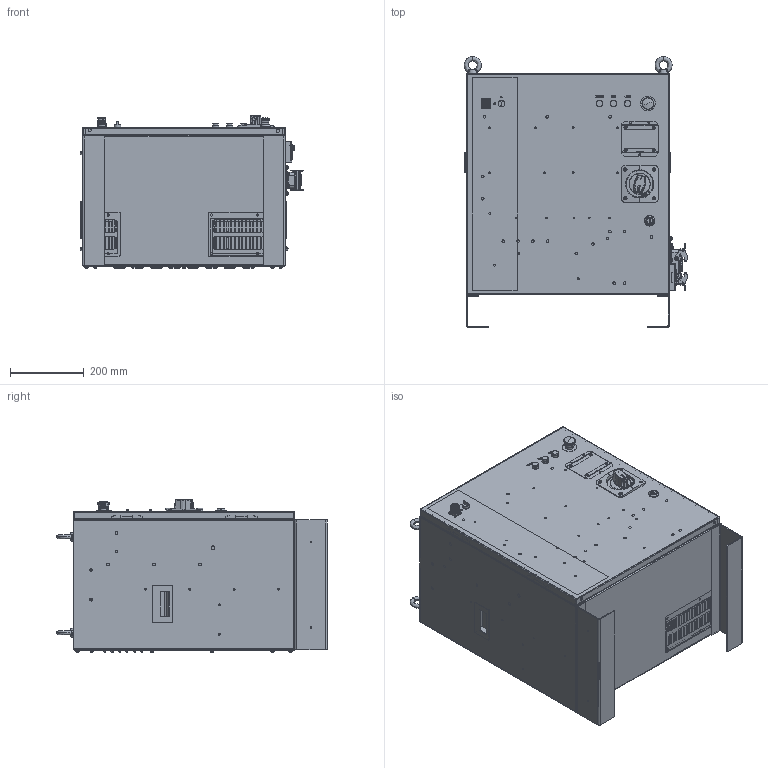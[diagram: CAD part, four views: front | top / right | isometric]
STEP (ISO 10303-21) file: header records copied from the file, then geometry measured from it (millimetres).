
FILE_DESCRIPTION (( 'STEP AP214' ), '1' );
FILE_NAME ('ARC5-25-¿ØÖÆ¹ñÄ£ÐÍ.STEP', '2022-09-20T02:49:58', ( '' ), ( '' ), 'SwSTEP 2.0', 'SolidWorks 2011', '' );
FILE_SCHEMA (( 'AUTOMOTIVE_DESIGN' ));
Length unit declared in the file: millimetre
Products named in the file (1): ARC5-25-諷秶嶄耀倰
Bounding box: 605.72 x 733.1 x 413.85 mm (x, y, z)
Surface area: 3764690.2 mm2 (no closed solid volume)
Topology: 0 solids, 237 shells, 2070 faces, 9146 edges, 7185 vertices
Faces by surface type: cylinder 790, plane 698, sphere 196, bspline 182, torus 143, cone 61
Entity records: 222031 total; most frequent: CARTESIAN_POINT 126890, DIRECTION 15167, ORIENTED_EDGE 12734, EDGE_CURVE 9129, VERTEX_POINT 7185, AXIS2_PLACEMENT_3D 5586, VECTOR 3995, LINE 3995
